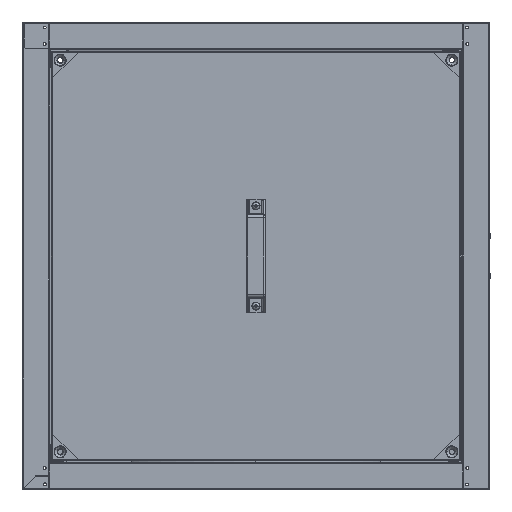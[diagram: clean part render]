
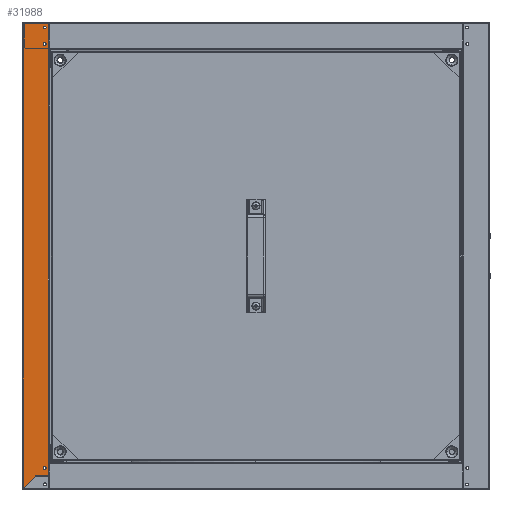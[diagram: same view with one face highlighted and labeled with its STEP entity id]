
A CAD part, left-side view. The second image highlights one B-rep face of the part: STEP entity #31988.
In plain terms, the highlighted planar face has unit normal (-1, 0, 0).
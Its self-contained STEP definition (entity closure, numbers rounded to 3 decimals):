
#5165 = CARTESIAN_POINT ( 'NONE',  ( -350., 349.1, -348.45 ) ) ;
#5384 = DIRECTION ( 'NONE',  ( -1., 0., 0. ) ) ;
#5837 = CARTESIAN_POINT ( 'NONE',  ( -350., 316., -317.2 ) ) ;
#5935 = DIRECTION ( 'NONE',  ( 0., 0.707, -0.707 ) ) ;
#6125 = DIRECTION ( 'NONE',  ( 0., -1., 0. ) ) ;
#14063 = DIRECTION ( 'NONE',  ( 1., 0., 0. ) ) ;
#14077 = CARTESIAN_POINT ( 'NONE',  ( -350., 350., 348.95 ) ) ;
#14079 = PLANE ( 'NONE',  #80506 ) ;
#14081 = DIRECTION ( 'NONE',  ( 0., 1., 0. ) ) ;
#14269 = EDGE_CURVE ( 'NONE', #34513, #29386, #50736, .T. ) ;
#14278 = EDGE_CURVE ( 'NONE', #67266, #76201, #50747, .T. ) ;
#14918 = EDGE_CURVE ( 'NONE', #67347, #67307, #43099, .T. ) ;
#15111 = EDGE_CURVE ( 'NONE', #76201, #67266, #43649, .T. ) ;
#15167 = EDGE_CURVE ( 'NONE', #67471, #67365, #43825, .T. ) ;
#15353 = AXIS2_PLACEMENT_3D ( 'NONE', #22116, #22629, #23188 ) ;
#15388 = EDGE_CURVE ( 'NONE', #67347, #67365, #44404, .T. ) ;
#15479 = EDGE_CURVE ( 'NONE', #29386, #34513, #44576, .T. ) ;
#15570 = AXIS2_PLACEMENT_3D ( 'NONE', #21846, #21950, #22408 ) ;
#15574 = EDGE_CURVE ( 'NONE', #67307, #67249, #44710, .T. ) ;
#15873 = EDGE_CURVE ( 'NONE', #33925, #29403, #36602, .T. ) ;
#16086 = EDGE_CURVE ( 'NONE', #29421, #67388, #36897, .T. ) ;
#16116 = EDGE_CURVE ( 'NONE', #67249, #29403, #36937, .T. ) ;
#16164 = EDGE_CURVE ( 'NONE', #33925, #34377, #37008, .T. ) ;
#16260 = EDGE_CURVE ( 'NONE', #34299, #67471, #37133, .T. ) ;
#16335 = EDGE_CURVE ( 'NONE', #34377, #34299, #37247, .T. ) ;
#16528 = EDGE_CURVE ( 'NONE', #67388, #29421, #37518, .T. ) ;
#21846 = CARTESIAN_POINT ( 'NONE',  ( -350., 316., 317.2 ) ) ;
#21950 = DIRECTION ( 'NONE',  ( -1., 0., 0. ) ) ;
#22116 = CARTESIAN_POINT ( 'NONE',  ( -350., 316., -317.2 ) ) ;
#22408 = DIRECTION ( 'NONE',  ( 0., -1., 0. ) ) ;
#22629 = DIRECTION ( 'NONE',  ( -1., 0., 0. ) ) ;
#23188 = DIRECTION ( 'NONE',  ( 0., -1., 0. ) ) ;
#23884 = CARTESIAN_POINT ( 'NONE',  ( -350., 316., 341.7 ) ) ;
#24959 = EDGE_LOOP ( 'NONE', ( #50234, #50235 ) ) ;
#24993 = EDGE_LOOP ( 'NONE', ( #50232, #50233 ) ) ;
#25807 = DIRECTION ( 'NONE',  ( 0., -1., 0. ) ) ;
#25915 = DIRECTION ( 'NONE',  ( -1., 0., 0. ) ) ;
#26637 = EDGE_LOOP ( 'NONE', ( #50221, #50248, #50169, #50219, #50165, #50163, #50162, #50161, #52058 ) ) ;
#26766 = EDGE_LOOP ( 'NONE', ( #50236, #50237 ) ) ;
#27156 = CARTESIAN_POINT ( 'NONE',  ( -350., 310.7, -310.05 ) ) ;
#27695 = CARTESIAN_POINT ( 'NONE',  ( -350., 318.1, 341.7 ) ) ;
#27792 = CARTESIAN_POINT ( 'NONE',  ( -350., 318.1, -317.2 ) ) ;
#29386 = VERTEX_POINT ( 'NONE', #27792 ) ;
#29403 = VERTEX_POINT ( 'NONE', #27156 ) ;
#29421 = VERTEX_POINT ( 'NONE', #27695 ) ;
#31988 = ADVANCED_FACE ( 'NONE', ( #36281, #36284, #36282, #36283 ), #14079, .F. ) ;
#33187 = CARTESIAN_POINT ( 'NONE',  ( -350., 310.2, -310.05 ) ) ;
#33399 = CARTESIAN_POINT ( 'NONE',  ( -350., 316., 317.2 ) ) ;
#33578 = CARTESIAN_POINT ( 'NONE',  ( -350., 310.2, -329.1 ) ) ;
#33753 = DIRECTION ( 'NONE',  ( -1., 0., 0. ) ) ;
#33836 = CARTESIAN_POINT ( 'NONE',  ( -350., 348., 348.95 ) ) ;
#33925 = VERTEX_POINT ( 'NONE', #57722 ) ;
#34098 = DIRECTION ( 'NONE',  ( 0., -1., 0. ) ) ;
#34299 = VERTEX_POINT ( 'NONE', #57808 ) ;
#34377 = VERTEX_POINT ( 'NONE', #57867 ) ;
#34513 = VERTEX_POINT ( 'NONE', #57955 ) ;
#34655 = DIRECTION ( 'NONE',  ( 0., 0., 1. ) ) ;
#34857 = DIRECTION ( 'NONE',  ( 0., 0., -1. ) ) ;
#35104 = DIRECTION ( 'NONE',  ( 0., -1., 0. ) ) ;
#36281 = FACE_BOUND ( 'NONE', #24993, .T. ) ;
#36282 = FACE_BOUND ( 'NONE', #26766, .T. ) ;
#36283 = FACE_OUTER_BOUND ( 'NONE', #26637, .T. ) ;
#36284 = FACE_BOUND ( 'NONE', #24959, .T. ) ;
#36602 = LINE ( 'NONE', #63851, #36604 ) ;
#36604 = VECTOR ( 'NONE', #64142, 1000. ) ;
#36897 = CIRCLE ( 'NONE', #76281, 2.1 ) ;
#36937 = LINE ( 'NONE', #64666, #36940 ) ;
#36940 = VECTOR ( 'NONE', #64697, 1000. ) ;
#37008 = LINE ( 'NONE', #63553, #37011 ) ;
#37011 = VECTOR ( 'NONE', #63974, 1000. ) ;
#37133 = LINE ( 'NONE', #45993, #37138 ) ;
#37138 = VECTOR ( 'NONE', #45930, 1000. ) ;
#37247 = LINE ( 'NONE', #46129, #37250 ) ;
#37250 = VECTOR ( 'NONE', #46125, 1000. ) ;
#37518 = CIRCLE ( 'NONE', #76567, 2.1 ) ;
#43099 = LINE ( 'NONE', #33578, #43103 ) ;
#43103 = VECTOR ( 'NONE', #34098, 1000. ) ;
#43649 = CIRCLE ( 'NONE', #76626, 2.1 ) ;
#43825 = LINE ( 'NONE', #33836, #43829 ) ;
#43829 = VECTOR ( 'NONE', #34857, 1000. ) ;
#44404 = LINE ( 'NONE', #5165, #44410 ) ;
#44410 = VECTOR ( 'NONE', #5935, 1000. ) ;
#44576 = CIRCLE ( 'NONE', #76488, 2.1 ) ;
#44710 = LINE ( 'NONE', #33187, #44712 ) ;
#44712 = VECTOR ( 'NONE', #34655, 1000. ) ;
#45930 = DIRECTION ( 'NONE',  ( 0., 1., 0. ) ) ;
#45993 = CARTESIAN_POINT ( 'NONE',  ( -350., 310.2, 348. ) ) ;
#46125 = DIRECTION ( 'NONE',  ( 0., 0., 1. ) ) ;
#46129 = CARTESIAN_POINT ( 'NONE',  ( -350., 310.2, 311.65 ) ) ;
#50161 = ORIENTED_EDGE ( 'NONE', *, *, #16164, .T. ) ;
#50162 = ORIENTED_EDGE ( 'NONE', *, *, #15873, .F. ) ;
#50163 = ORIENTED_EDGE ( 'NONE', *, *, #16116, .T. ) ;
#50165 = ORIENTED_EDGE ( 'NONE', *, *, #15574, .T. ) ;
#50169 = ORIENTED_EDGE ( 'NONE', *, *, #15388, .F. ) ;
#50219 = ORIENTED_EDGE ( 'NONE', *, *, #14918, .T. ) ;
#50221 = ORIENTED_EDGE ( 'NONE', *, *, #16260, .T. ) ;
#50232 = ORIENTED_EDGE ( 'NONE', *, *, #14269, .F. ) ;
#50233 = ORIENTED_EDGE ( 'NONE', *, *, #15479, .F. ) ;
#50234 = ORIENTED_EDGE ( 'NONE', *, *, #14278, .F. ) ;
#50235 = ORIENTED_EDGE ( 'NONE', *, *, #15111, .F. ) ;
#50236 = ORIENTED_EDGE ( 'NONE', *, *, #16528, .F. ) ;
#50237 = ORIENTED_EDGE ( 'NONE', *, *, #16086, .F. ) ;
#50248 = ORIENTED_EDGE ( 'NONE', *, *, #15167, .T. ) ;
#50736 = CIRCLE ( 'NONE', #15353, 2.1 ) ;
#50747 = CIRCLE ( 'NONE', #15570, 2.1 ) ;
#52058 = ORIENTED_EDGE ( 'NONE', *, *, #16335, .T. ) ;
#57722 = CARTESIAN_POINT ( 'NONE',  ( -350., 310.7, 311.65 ) ) ;
#57808 = CARTESIAN_POINT ( 'NONE',  ( -350., 310.2, 348. ) ) ;
#57867 = CARTESIAN_POINT ( 'NONE',  ( -350., 310.2, 311.65 ) ) ;
#57955 = CARTESIAN_POINT ( 'NONE',  ( -350., 313.9, -317.2 ) ) ;
#58615 = CARTESIAN_POINT ( 'NONE',  ( -350., 318.1, 317.2 ) ) ;
#63553 = CARTESIAN_POINT ( 'NONE',  ( -350., 310.7, 311.65 ) ) ;
#63789 = DIRECTION ( 'NONE',  ( 0., -1., 0. ) ) ;
#63851 = CARTESIAN_POINT ( 'NONE',  ( -350., 310.7, 348.95 ) ) ;
#63974 = DIRECTION ( 'NONE',  ( 0., -1., 0. ) ) ;
#64142 = DIRECTION ( 'NONE',  ( 0., 0., -1. ) ) ;
#64353 = DIRECTION ( 'NONE',  ( -1., 0., 0. ) ) ;
#64455 = CARTESIAN_POINT ( 'NONE',  ( -350., 316., 341.7 ) ) ;
#64666 = CARTESIAN_POINT ( 'NONE',  ( -350., 310.7, -310.05 ) ) ;
#64697 = DIRECTION ( 'NONE',  ( 0., 1., 0. ) ) ;
#67249 = VERTEX_POINT ( 'NONE', #83153 ) ;
#67266 = VERTEX_POINT ( 'NONE', #83194 ) ;
#67307 = VERTEX_POINT ( 'NONE', #83302 ) ;
#67347 = VERTEX_POINT ( 'NONE', #83410 ) ;
#67365 = VERTEX_POINT ( 'NONE', #83453 ) ;
#67388 = VERTEX_POINT ( 'NONE', #83513 ) ;
#67471 = VERTEX_POINT ( 'NONE', #83692 ) ;
#76201 = VERTEX_POINT ( 'NONE', #58615 ) ;
#76281 = AXIS2_PLACEMENT_3D ( 'NONE', #64455, #64353, #63789 ) ;
#76488 = AXIS2_PLACEMENT_3D ( 'NONE', #5837, #5384, #6125 ) ;
#76567 = AXIS2_PLACEMENT_3D ( 'NONE', #23884, #25915, #25807 ) ;
#76626 = AXIS2_PLACEMENT_3D ( 'NONE', #33399, #33753, #35104 ) ;
#80506 = AXIS2_PLACEMENT_3D ( 'NONE', #14077, #14063, #14081 ) ;
#83153 = CARTESIAN_POINT ( 'NONE',  ( -350., 310.2, -310.05 ) ) ;
#83194 = CARTESIAN_POINT ( 'NONE',  ( -350., 313.9, 317.2 ) ) ;
#83302 = CARTESIAN_POINT ( 'NONE',  ( -350., 310.2, -329.1 ) ) ;
#83410 = CARTESIAN_POINT ( 'NONE',  ( -350., 329.75, -329.1 ) ) ;
#83453 = CARTESIAN_POINT ( 'NONE',  ( -350., 348., -347.35 ) ) ;
#83513 = CARTESIAN_POINT ( 'NONE',  ( -350., 313.9, 341.7 ) ) ;
#83692 = CARTESIAN_POINT ( 'NONE',  ( -350., 348., 348. ) ) ;
